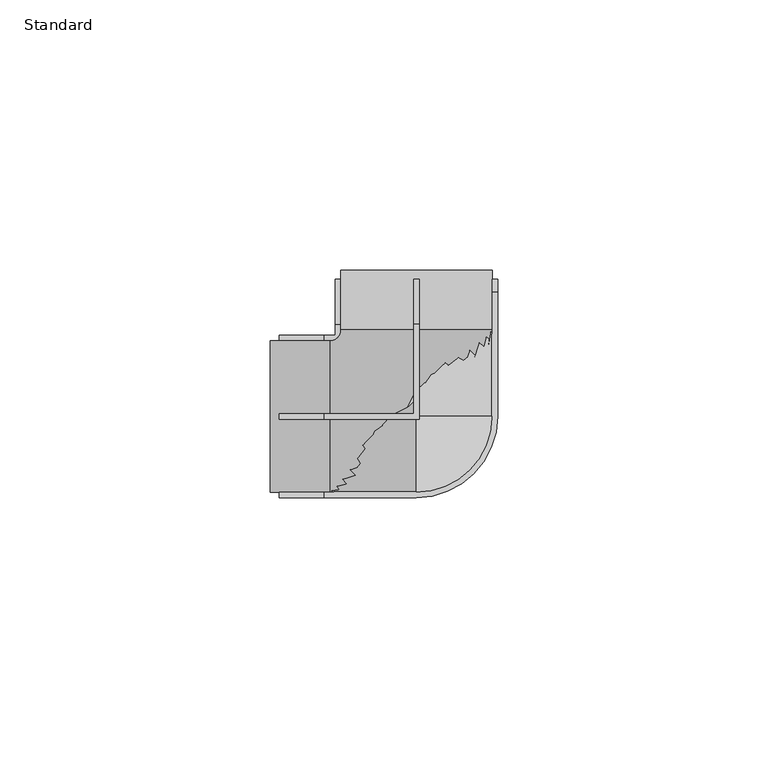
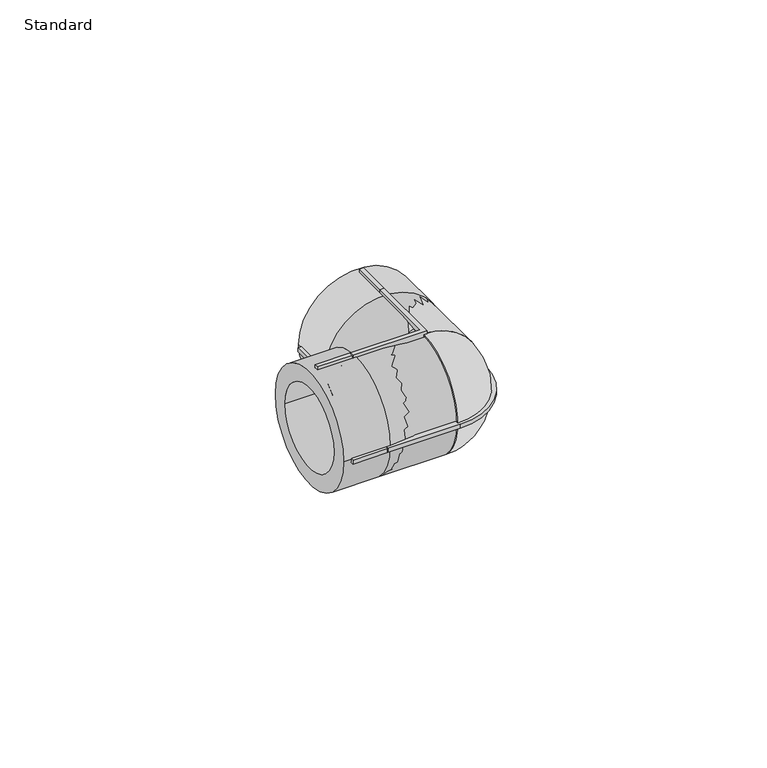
"""IFC4 building model written with IfcOpenShell, lengths in millimetres: pipe fitting geometry, EGB_VASEN_ PPR_Codo 90 WXR200_Codo 45 WXR220  : Standard."""

from ifc_helpers import new_model, si_unit, point, frame, origin, origin_2d, place, context, project, spatial, polyline, circle_curve, ellipse_curve, trimmed, segment, composite_curve, outline, extrude, source, transform, mapped, element, save
from ifc_brep_helpers import plane_surface, cylinder_surface, revolved_surface, advanced_brep


def standard_65541700(model_context):
    return source(origin(), model_context, "Body", "SolidModel", [
        advanced_brep(
        [(0.0, 0.0, -14.0), (0.0, 0.0, 14.0)],
        [
            (0, 1, circle_curve(frame((0.0, 0.0, 0.0), z_axis=(-1.0, 0.0, 0.0), x_axis=(0.0, 1.0, 0.0)), 14.0)),
            (1, 0),
            (1, 0, circle_curve(frame((0.0, 0.0, 0.0), z_axis=(0.0, 1.0, 0.0), x_axis=(-1.0, 0.0, 0.0)), 14.0)),
        ],
        [
            plane_surface(frame((0.0, 0.0, 24.0431585), z_axis=(-1.0, 0.0, 0.0), x_axis=(0.0, -1.0, 0.0))),
            plane_surface(frame((0.0, 0.0, 24.0431585), z_axis=(0.0, 1.0, 0.0), x_axis=(1.0, 0.0, 0.0))),
            revolved_surface(trimmed(ellipse_curve(frame((0.0, 0.0, 0.0), z_axis=(1.0, 0.0, 0.0), x_axis=(0.0, 1.0, 0.0)), 14.0, 14.0), [point((0.0, 0.0, 14.0))], [point((0.0, 0.0, -14.0))], True, "CARTESIAN"), (0.0, 0.0, 24.0431585), (0.0, 0.0, -1.0)),
        ],
        [
            (0, [[1, 2]]),
            (1, [[3, -2]]),
            (2, [[-1, -3]]),
        ],
    ),
        advanced_brep(
        [(-27.0, -14.0, 0.0), (-27.0, 14.0, 0.0), (-27.0, -10.0, 0.0), (-27.0, 10.0, 0.0), (-16.0, -14.0, 0.0), (-16.0, 14.0, 0.0), (-16.0, -10.0, 0.0), (-16.0, 10.0, 0.0), (10.0, 16.0, 0.0), (-10.0, 16.0, 0.0), (-14.0, 16.0, 0.0), (14.0, 16.0, 0.0), (14.0, 27.0, 0.0), (-14.0, 27.0, 0.0), (10.0, 27.0, 0.0), (-10.0, 27.0, 0.0)],
        [
            (0, 1, circle_curve(frame((-27.0, 0.0, 0.0), z_axis=(-1.0, 0.0, 0.0), x_axis=(0.0, 1.0, 0.0)), 14.0)),
            (1, 0, circle_curve(frame((-27.0, 0.0, 0.0), z_axis=(-1.0, 0.0, 0.0), x_axis=(0.0, 1.0, 0.0)), 14.0)),
            (2, 3, circle_curve(frame((-27.0, 0.0, 0.0), z_axis=(1.0, 0.0, 0.0), x_axis=(0.0, 1.0, 0.0)), 10.0)),
            (3, 2, circle_curve(frame((-27.0, 0.0, 0.0), z_axis=(1.0, 0.0, 0.0), x_axis=(0.0, 1.0, 0.0)), 10.0)),
            (0, 4),
            (4, 5, circle_curve(frame((-16.0, 0.0, 0.0), z_axis=(-1.0, 0.0, 0.0), x_axis=(0.0, 1.0, 0.0)), 14.0)),
            (5, 1),
            (5, 4, circle_curve(frame((-16.0, 0.0, 0.0), z_axis=(-1.0, 0.0, 0.0), x_axis=(0.0, 1.0, 0.0)), 14.0)),
            (2, 6),
            (6, 7, circle_curve(frame((-16.0, 0.0, 0.0), z_axis=(1.0, 0.0, 0.0), x_axis=(0.0, 1.0, 0.0)), 10.0)),
            (7, 3),
            (7, 6, circle_curve(frame((-16.0, 0.0, 0.0), z_axis=(1.0, 0.0, 0.0), x_axis=(0.0, 1.0, 0.0)), 10.0)),
            (8, 9, circle_curve(frame((0.0, 16.0, 0.0), z_axis=(0.0, 1.0, 0.0), x_axis=(-1.0, 0.0, 0.0)), 10.0)),
            (9, 8, circle_curve(frame((0.0, 16.0, 0.0), z_axis=(0.0, 1.0, 0.0), x_axis=(-1.0, 0.0, 0.0)), 10.0)),
            (10, 5, circle_curve(frame((-16.0, 16.0, 0.0), z_axis=(0.0, 0.0, -1.0), x_axis=(0.0, -1.0, 0.0)), 2.0)),
            (4, 11, circle_curve(frame((-16.0, 16.0, 0.0), z_axis=(0.0, 0.0, 1.0), x_axis=(0.0, -1.0, 0.0)), 30.0)),
            (11, 10, circle_curve(frame((0.0, 16.0, 0.0), z_axis=(0.0, -1.0, 0.0), x_axis=(-1.0, 0.0, 0.0)), 14.0)),
            (10, 11, circle_curve(frame((0.0, 16.0, 0.0), z_axis=(0.0, -1.0, 0.0), x_axis=(-1.0, 0.0, 0.0)), 14.0)),
            (12, 13, circle_curve(frame((0.0, 27.0, 0.0), z_axis=(0.0, 1.0, 0.0), x_axis=(-1.0, 0.0, 0.0)), 14.0)),
            (13, 12, circle_curve(frame((0.0, 27.0, 0.0), z_axis=(0.0, 1.0, 0.0), x_axis=(-1.0, 0.0, 0.0)), 14.0)),
            (14, 15, circle_curve(frame((0.0, 27.0, 0.0), z_axis=(0.0, -1.0, 0.0), x_axis=(-1.0, 0.0, 0.0)), 10.0)),
            (15, 14, circle_curve(frame((0.0, 27.0, 0.0), z_axis=(0.0, -1.0, 0.0), x_axis=(-1.0, 0.0, 0.0)), 10.0)),
            (13, 10),
            (11, 12),
            (15, 9),
            (8, 14),
        ],
        [
            plane_surface(frame((-27.0, 0.0, 0.0), z_axis=(-1.0, 0.0, 0.0), x_axis=(0.0, 0.0, 1.0))),
            cylinder_surface(frame((-27.0, 0.0, 0.0), z_axis=(-1.0, 0.0, 0.0), x_axis=(0.0, 1.0, 0.0)), 14.0),
            revolved_surface(polyline([(-16.0, 10.0, 0.0), (-27.0, 10.0, 0.0)]), (-27.0, 0.0, 0.0), (1.0, 0.0, 0.0)),
            plane_surface(frame((-16.0, 0.0, 0.0), z_axis=(-1.0, 0.0, 0.0), x_axis=(0.0, 0.0, 1.0))),
            plane_surface(frame((0.0, 16.0, 0.0), z_axis=(0.0, 1.0, 0.0), x_axis=(0.0, 0.0, 1.0))),
            revolved_surface(trimmed(ellipse_curve(frame((-16.0, 0.0, 0.0), z_axis=(-1.0, 0.0, 0.0), x_axis=(0.0, 1.0, 0.0)), 14.0, 14.0), [point((-16.0, -14.0, 0.0))], [point((-16.0, 14.0, 0.0))], True, "CARTESIAN"), (-16.0, 16.0, 0.0), (0.0, 0.0, 1.0)),
            revolved_surface(trimmed(ellipse_curve(frame((-16.0, 0.0, 0.0), z_axis=(-1.0, 0.0, 0.0), x_axis=(0.0, 1.0, 0.0)), 14.0, 14.0), [point((-16.0, 14.0, 0.0))], [point((-16.0, -14.0, 0.0))], True, "CARTESIAN"), (-16.0, 16.0, 0.0), (0.0, 0.0, 1.0)),
            plane_surface(frame((0.0, 27.0, 0.0), z_axis=(0.0, 1.0, 0.0), x_axis=(0.0, 0.0, 1.0))),
            cylinder_surface(frame((0.0, 16.0, 0.0), z_axis=(0.0, -1.0, 0.0), x_axis=(-1.0, 0.0, 0.0)), 14.0),
            revolved_surface(polyline([(-10.0, 27.0, 0.0), (-10.0, 16.0, 0.0)]), (0.0, 16.0, 0.0), (0.0, 1.0, 0.0)),
        ],
        [
            (0, [[1, 2], [3, 4]]),
            (1, [[-1, 5, 6, 7]]),
            (1, [[-2, -7, 8, -5]]),
            (2, [[-3, 9, 10, 11]]),
            (2, [[-4, -11, 12, -9]]),
            (3, [[-10, -12]]),
            (4, [[13, 14]]),
            (5, [[15, -6, 16, 17]]),
            (6, [[-15, 18, -16, -8]]),
            (7, [[19, 20], [21, 22]]),
            (8, [[-20, 23, -17, 24]]),
            (8, [[-19, -24, -18, -23]]),
            (9, [[-22, 25, -13, 26]]),
            (9, [[-21, -26, -14, -25]]),
        ],
    ),
        extrude(outline(composite_curve([segment(polyline([(-17.0, -15.0), (-17.0, -13.0), (0.0, -13.0)]), True, "CONTINUOUS"), segment(trimmed(circle_curve(origin_2d(), 13.0), [point((0.0, -13.0))], [point((13.0, 0.0))], True, "CARTESIAN"), True, "CONTINUOUS"), segment(polyline([(13.0, 0.0), (13.0, 23.0), (15.0, 23.0), (15.0, 0.0)]), True, "CONTINUOUS"), segment(trimmed(circle_curve(origin_2d(), 15.0), [point((15.0, 0.0))], [point((0.0, -15.0))], False, "CARTESIAN"), True, "CONTINUOUS"), segment(polyline([(0.0, -15.0), (-17.0, -15.0)]), True, "CONTINUOUS")], self_intersect=False)), frame((0.0, 0.0, -0.5), z_axis=(0.0, 0.0, 1.0), x_axis=(1.0, 0.0, 0.0)), (0.0, 0.0, 1.0), 1.0),
        extrude(outline(polyline([(-17.0, -0.5), (-17.0, 0.5), (-0.5, 0.5), (-0.5, 17.0), (0.5, 17.0), (0.5, -0.5), (-17.0, -0.5)])), frame((0.0, 0.0, 13.0), z_axis=(0.0, 0.0, 1.0), x_axis=(1.0, 0.0, 0.0)), (0.0, 0.0, 1.0), 2.0),
        extrude(outline(polyline([(-17.0, -0.5), (-17.0, 0.5), (-0.5, 0.5), (-0.5, 17.0), (0.5, 17.0), (0.5, -0.5), (-17.0, -0.5)])), frame((0.0, 0.0, -15.0), z_axis=(0.0, 0.0, 1.0), x_axis=(1.0, 0.0, 0.0)), (0.0, 0.0, 1.0), 2.0),
        extrude(outline(polyline([(-17.0, 13.0), (-17.0, 15.0), (-15.0, 15.0), (-15.0, 17.0), (-13.0, 17.0), (-13.0, 13.0), (-17.0, 13.0)])), frame((0.0, 0.0, -0.5), z_axis=(0.0, 0.0, 1.0), x_axis=(1.0, 0.0, 0.0)), (0.0, 0.0, 1.0), 1.0),
        extrude(outline(composite_curve([segment(trimmed(circle_curve(origin_2d(), 14.0), [point((-14.0, 0.0))], [point((14.0, 0.0))], False, "CARTESIAN"), True, "CONTINUOUS"), segment(trimmed(circle_curve(origin_2d(), 14.0), [point((14.0, 0.0))], [point((-14.0, 0.0))], False, "CARTESIAN"), True, "CONTINUOUS")], self_intersect=False)), frame((-16.0, 0.0, 0.0), z_axis=(1.0, 0.0, 0.0), x_axis=(0.0, 1.0, 0.0)), (0.0, 0.0, 1.0), 16.0),
        extrude(outline(composite_curve([segment(trimmed(circle_curve(origin_2d(), 14.0), [point((0.0, -14.0))], [point((0.0, 14.0))], False, "CARTESIAN"), True, "CONTINUOUS"), segment(trimmed(circle_curve(origin_2d(), 14.0), [point((0.0, 14.0))], [point((0.0, -14.0))], False, "CARTESIAN"), True, "CONTINUOUS")], self_intersect=False)), frame((0.0, 0.0, 0.0), z_axis=(0.0, 1.0, 0.0), x_axis=(0.0, 0.0, 1.0)), (0.0, 0.0, 1.0), 16.0),
        extrude(outline(polyline([(0.5, 17.0), (-0.5, 17.0), (-0.5, 25.4), (0.5, 25.4), (0.5, 17.0)])), frame((0.0, 0.0, 13.0), z_axis=(0.0, 0.0, 1.0), x_axis=(1.0, 0.0, 0.0)), (0.0, 0.0, 1.0), 2.0),
        extrude(outline(polyline([(-13.0, 17.0), (-15.0, 17.0), (-15.0, 25.4), (-13.0, 25.4), (-13.0, 17.0)])), frame((0.0, 0.0, -0.5), z_axis=(0.0, 0.0, 1.0), x_axis=(1.0, 0.0, 0.0)), (0.0, 0.0, 1.0), 1.0),
        extrude(outline(polyline([(15.0, 17.0), (13.0, 17.0), (13.0, 25.4), (15.0, 25.4), (15.0, 17.0)])), frame((0.0, 0.0, -0.5), z_axis=(0.0, 0.0, 1.0), x_axis=(1.0, 0.0, 0.0)), (0.0, 0.0, 1.0), 1.0),
        extrude(outline(polyline([(0.5, 17.0), (-0.5, 17.0), (-0.5, 25.4), (0.5, 25.4), (0.5, 17.0)])), frame((0.0, 0.0, -15.0), z_axis=(0.0, 0.0, 1.0), x_axis=(1.0, 0.0, 0.0)), (0.0, 0.0, 1.0), 2.0),
        extrude(outline(polyline([(-17.0, 0.5), (-17.0, -0.5), (-25.4, -0.5), (-25.4, 0.5), (-17.0, 0.5)])), frame((0.0, 0.0, 13.0), z_axis=(0.0, 0.0, 1.0), x_axis=(1.0, 0.0, 0.0)), (0.0, 0.0, 1.0), 2.0),
        extrude(outline(polyline([(-17.0, 0.5), (-17.0, -0.5), (-25.4, -0.5), (-25.4, 0.5), (-17.0, 0.5)])), frame((0.0, 0.0, -15.0), z_axis=(0.0, 0.0, 1.0), x_axis=(1.0, 0.0, 0.0)), (0.0, 0.0, 1.0), 2.0),
        extrude(outline(polyline([(-17.0, 15.0), (-17.0, 13.0), (-25.4, 13.0), (-25.4, 15.0), (-17.0, 15.0)])), frame((0.0, 0.0, -0.5), z_axis=(0.0, 0.0, 1.0), x_axis=(1.0, 0.0, 0.0)), (0.0, 0.0, 1.0), 1.0),
        extrude(outline(polyline([(-17.0, -13.0), (-17.0, -15.0), (-25.4, -15.0), (-25.4, -13.0), (-17.0, -13.0)])), frame((0.0, 0.0, -0.5), z_axis=(0.0, 0.0, 1.0), x_axis=(1.0, 0.0, 0.0)), (0.0, 0.0, 1.0), 1.0),
    ])


if __name__ == "__main__":
    model = new_model("IFC4")
    model_context = context("Model", 3, world=origin())
    ifc_project = project(units=[si_unit("LENGTHUNIT", "METRE", prefix="MILLI")], contexts=[model_context])
    site = spatial("IfcSite", under=ifc_project)
    building = spatial("IfcBuilding", under=site)
    placement = place(None, origin())
    standard_shape = standard_65541700(model_context)
    element("IfcPipeFitting", 1, ObjectType="EGB_VASEN_ PPR_Codo 90 WXR200_Codo 45 WXR220  : Standard", at=placement, inside=building, context=model_context, shape_type="MappedRepresentation", body=[
        mapped(standard_shape, transform((0.0, 0.0, 0.0), x_axis=(1.0, 0.0, 0.0), y_axis=(0.0, 1.0, 0.0), z_axis=(0.0, 0.0, 1.0))),
    ])
    save(model, "model.ifc")
